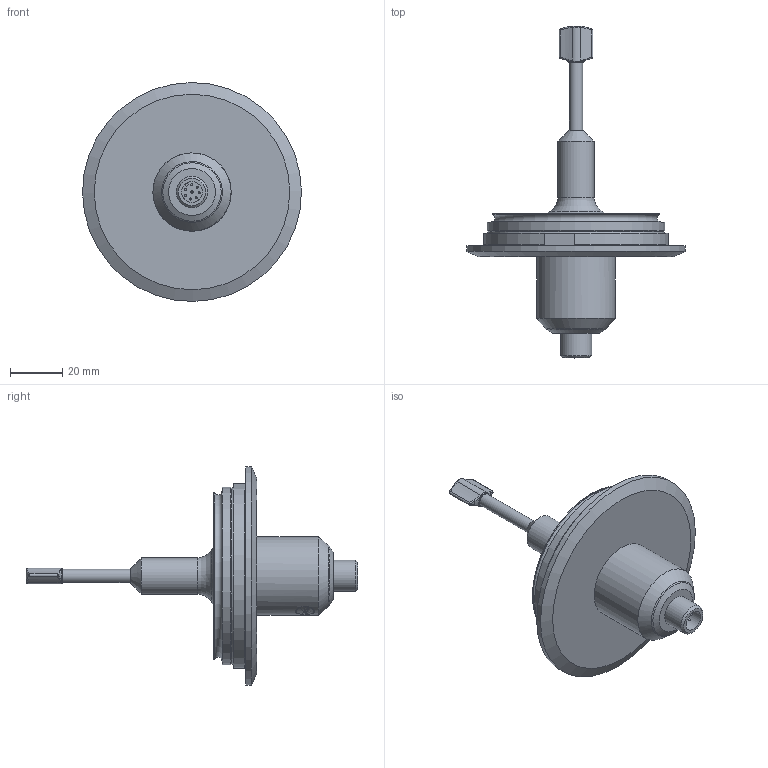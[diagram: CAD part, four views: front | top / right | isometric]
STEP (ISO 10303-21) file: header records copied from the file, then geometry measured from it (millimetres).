
FILE_DESCRIPTION(/* description */ ('Unknown'),/* implementation_level */ '2;1');
FILE_NAME(/* name */ 'SRD-X2-VN',/* time_stamp */ '2024-08-13T12:44:51-05:00',/* author */ ('Unknown'),/* organization */ ('Unknown'),/* preprocessor_version */ 'ST-DEVELOPER v16.7',/* originating_system */ 'Solid Edge',/* authorisation */ 'Unknown');
FILE_SCHEMA (('CONFIG_CONTROL_DESIGN'));
Length unit declared in the file: millimetre
Products named in the file (1): SRD-X2-VN
Bounding box: 84 x 127.35 x 84 mm (x, y, z)
Volume: 92768.9 mm3; surface area: 19702.7 mm2
Topology: 1 solids, 1 shells, 213 faces, 537 edges, 340 vertices
Faces by surface type: bspline 94, cylinder 45, plane 41, cone 13, torus 12, sphere 8
Full cylindrical faces by diameter (mm): 0.8 x8, 5.019 x1, 8 x1, 12 x1, 13.9 x1, 30 x1, 64 x1, 68 x1, 84 x1
Entity records: 11643 total; most frequent: CARTESIAN_POINT 5973, ORIENTED_EDGE 944, DIRECTION 608, EDGE_CURVE 472, VERTEX_POINT 322, EDGE_LOOP 274, FACE_BOUND 274, AXIS2_PLACEMENT_3D 233
